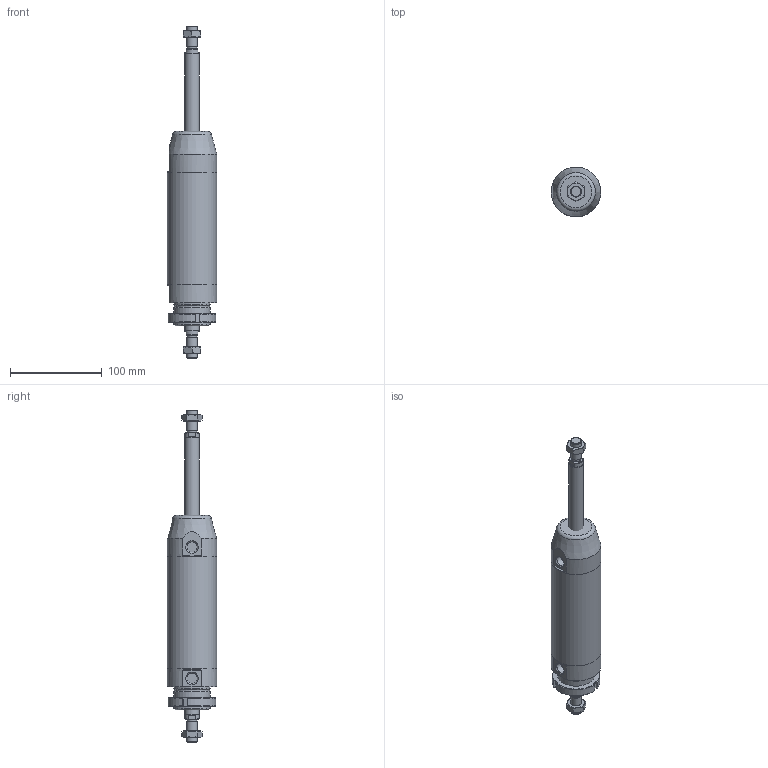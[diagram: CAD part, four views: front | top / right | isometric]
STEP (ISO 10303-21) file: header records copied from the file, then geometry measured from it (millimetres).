
FILE_DESCRIPTION(/* description */ (''),/* implementation_level */ '2;1');
FILE_NAME(/* name */ 'I:\Area Tecnica\Documenti\A-Manieri\_Inventor\12X\12X#T_###_####_#_#\12XCT_050_0080_#_#.stp',/* time_stamp */ '2015-05-13T08:46:06+02:00',/* author */ ('maniean1'),/* organization */ ('Pneumax S.p.A.'),/* preprocessor_version */ 'ST-DEVELOPER v15.2',/* originating_system */ 'Autodesk Inventor 2014',/* authorisation */ '');
FILE_SCHEMA (('AUTOMOTIVE_DESIGN { 1 0 10303 214 3 1 1 }'));
Length unit declared in the file: millimetre
Products named in the file (7): C1250_619-0080; 12X50_604; SP12X50_0080; 12X_50_11; 12X50_613; G12X_050_05; 12XCT_050_0080_#_#
Bounding box: 54 x 54 x 362 mm (x, y, z)
Volume: 342065.1 mm3; surface area: 98581.8 mm2
Topology: 7 solids, 7 shells, 107 faces, 238 edges, 152 vertices
Faces by surface type: plane 54, cylinder 26, cone 26, torus 1
Full cylindrical faces by diameter (mm): 10.2 x2, 11.4 x2, 12 x4, 14 x2, 15.6 x2, 16 x2, 38.2 x1, 40 x3, 50 x2, 54 x3
Entity records: 2546 total; most frequent: CARTESIAN_POINT 474, DIRECTION 433, ORIENTED_EDGE 338, AXIS2_PLACEMENT_3D 187, EDGE_CURVE 169, EDGE_LOOP 150, VERTEX_POINT 129, ADVANCED_FACE 96
